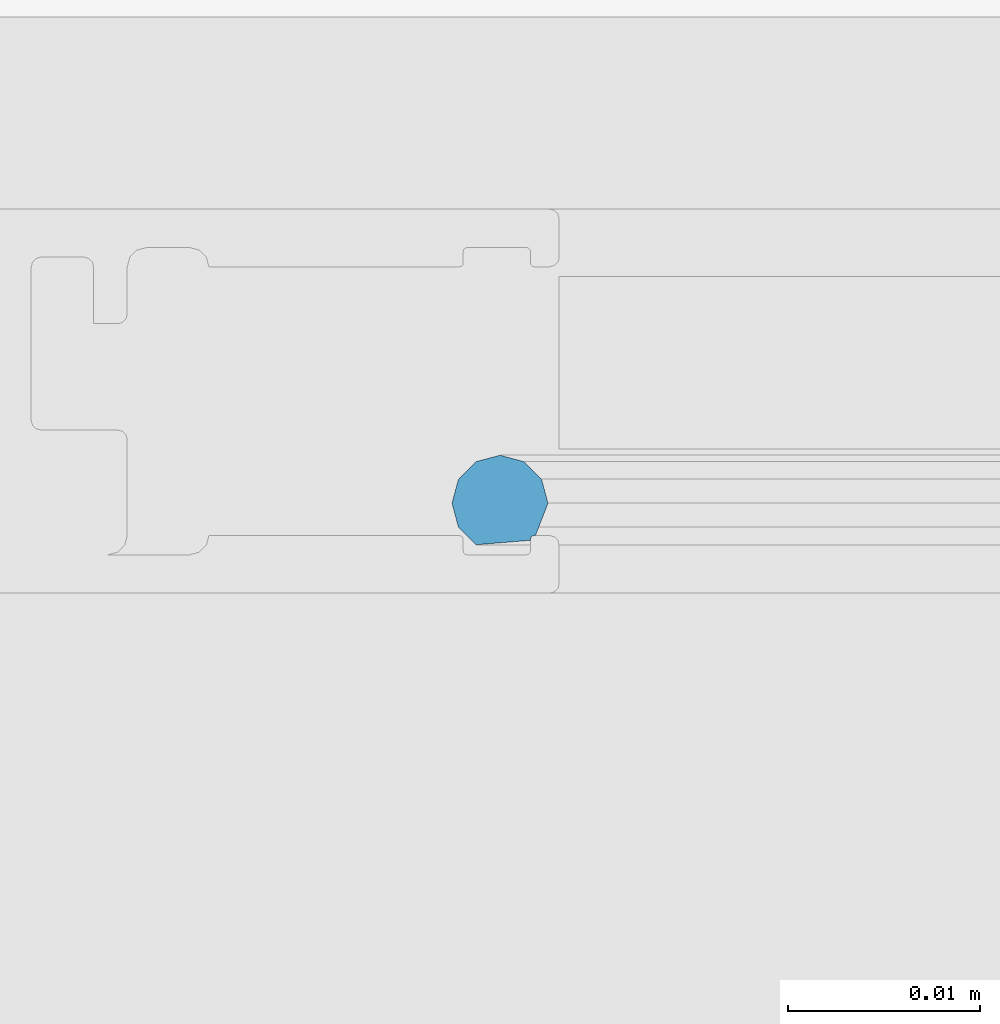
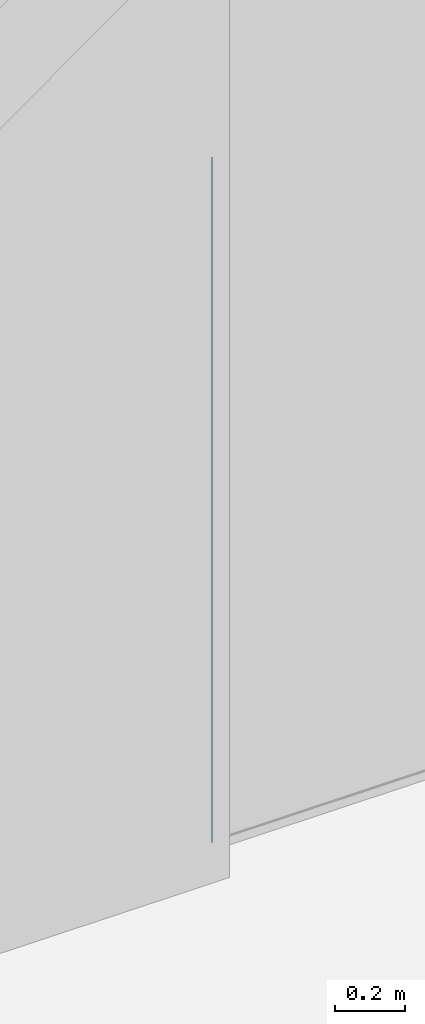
# One storey, part 86 of 387: 1 building element part, 2 elements without a shape of their own.
"""IFC2X3 building model written with IfcOpenShell, lengths in millimetres."""

from ifc_helpers import new_model, entity, si_unit, converted_unit, derived_unit, money_unit, direction, frame, origin_with_axes, place, context, subcontext, project, spatial, faceted_brep, source, transform, mapped, material, type_object, element, aggregate, save


model = new_model("IFC2X3")

# Units and contexts
model_context = context("Model", 3, precision=0.01, world=origin_with_axes(), true_north=direction((0.0, 1.0)))
body_context = subcontext(model_context, "Body", "Model", "MODEL_VIEW")
ifc_project = project(units=[si_unit("LENGTHUNIT", "METRE", prefix="MILLI"), si_unit("AREAUNIT", "SQUARE_METRE"), si_unit("VOLUMEUNIT", "CUBIC_METRE"), converted_unit("PLANEANGLEUNIT", "DEGREE", entity("IfcPlaneAngleMeasure", 0.0174532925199), si_unit("PLANEANGLEUNIT", "RADIAN"), dimensions=[0, 0, 0, 0, 0, 0, 0]), si_unit("SOLIDANGLEUNIT", "STERADIAN"), money_unit("EUR"), converted_unit("TIMEUNIT", "Year", entity("IfcTimeMeasure", 31556926.0), si_unit("TIMEUNIT", "SECOND"), dimensions=[0, 0, 1, 0, 0, 0, 0]), si_unit("MASSUNIT", "GRAM", prefix="KILO"), si_unit("THERMODYNAMICTEMPERATUREUNIT", "DEGREE_CELSIUS"), si_unit("LUMINOUSINTENSITYUNIT", "LUMEN"), si_unit("ENERGYUNIT", "JOULE", prefix="MEGA"), derived_unit("THERMALCONDUCTANCEUNIT", [(si_unit("POWERUNIT", "WATT"), 1), (si_unit("LENGTHUNIT", "METRE"), -1), (si_unit("THERMODYNAMICTEMPERATUREUNIT", "KELVIN"), -1)]), derived_unit("SPECIFICHEATCAPACITYUNIT", [(si_unit("ENERGYUNIT", "JOULE"), 1), (si_unit("MASSUNIT", "GRAM", prefix="KILO"), -1), (si_unit("THERMODYNAMICTEMPERATUREUNIT", "KELVIN"), -1)]), derived_unit("MASSDENSITYUNIT", [(si_unit("MASSUNIT", "GRAM", prefix="KILO"), 1), (si_unit("VOLUMEUNIT", "CUBIC_METRE"), -1)])], contexts=[model_context])

# Site, building, storey
site_placement = place(None, origin_with_axes())
site = spatial("IfcSite", under=ifc_project, at=site_placement, Name="Puškini 31, Narva", CompositionType="ELEMENT")
building_placement = place(site_placement, origin_with_axes())
building = spatial("IfcBuilding", under=site, at=building_placement, Name="Narva Riigigümnaasium", CompositionType="ELEMENT")
storey_placement = place(building_placement, frame((0.0, 0.0, 2640.0), z_axis=(0.0, 0.0, 1.0), x_axis=(1.0, 0.0, 0.0)))
storey = spatial("IfcBuildingStorey", under=building, at=storey_placement, Name="2.korrus +2.64", CompositionType="ELEMENT", Elevation=2640.0)

# Curtain wall, member, building element part
curtain_wall_type = type_object("IfcCurtainWallType", Name="Curtain Wall Type", PredefinedType="NOTDEFINED")
curtain_wall_placement = place(storey_placement, frame((26984.7499996, 181679.973357, -1.33722362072e-05), z_axis=(0.0, 0.0, 1.0), x_axis=(1.0, 0.0, 0.0)))
curtain_wall = element("IfcCurtainWall", 1, at=curtain_wall_placement, inside=storey, type_object=curtain_wall_type, Name="G-SKLF-18")
member_type = type_object("IfcMemberType", Name="30 x 10", PredefinedType="MULLION")
member_placement = place(curtain_wall_placement, frame((-554.75, -1.56887836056e-08, 0.0), z_axis=(0.0, 0.0, 1.0), x_axis=(1.0, 0.0, 0.0)))
member = element("IfcMember", 2, at=member_placement, type_object=member_type, Name="G-SKLF-20-raam", ObjectType="MULLION")
aggregate(curtain_wall, [member])
ifc_material = material(Name="Membraan - Veekindel")
shared_shape = source(origin_with_axes(), body_context, "Body", "Brep", [
    faceted_brep([(-25.6641727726, 7.48000965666, 25.6641727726), (-28.5, 7.24760028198, 28.5), (-28.5, 7.24760028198, 2400.00001337), (-25.6641727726, 7.48000965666, 2400.00001337), (-24.7491092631, 6.56494614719, 24.7491092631), (-24.4141727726, 5.31494614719, 24.4141727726), (-24.7491092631, 4.06494614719, 24.7491092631), (-25.6641727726, 3.14988263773, 25.6641727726), (-26.9141727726, 2.81494614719, 26.9141727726), (-28.1641727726, 3.14988263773, 28.1641727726), (-29.079236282, 4.06494614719, 29.079236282), (-29.4141727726, 5.31494614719, 29.4141727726), (-28.7609519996, 6.99999999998, 28.7609519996), (-28.7, 6.99999999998, 28.7), (-28.6, 7.02679491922, 28.6), (-28.5267949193, 7.09999999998, 28.5267949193), (-28.5, 7.19999999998, 28.5), (-28.5, 7.19999999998, 2400.00001337), (-28.5267949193, 7.09999999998, 2400.00001337), (-28.6, 7.02679491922, 2400.00001337), (-28.7, 6.99999999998, 2400.00001337), (-28.7609519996, 6.99999999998, 2400.00001337), (-29.4141727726, 5.31494614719, 2400.00001337), (-29.079236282, 4.06494614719, 2400.00001337), (-28.1641727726, 3.14988263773, 2400.00001337), (-26.9141727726, 2.81494614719, 2400.00001337), (-25.6641727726, 3.14988263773, 2400.00001337), (-24.7491092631, 4.06494614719, 2400.00001337), (-24.4141727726, 5.31494614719, 2400.00001337), (-24.7491092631, 6.56494614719, 2400.00001337)], [[[0, 1, 2, 3]], [[1, 0, 4, 5, 6, 7, 8, 9, 10, 11, 12, 13, 14, 15, 16]], [[1, 16, 17, 2]], [[2, 17, 18, 19, 20, 21, 22, 23, 24, 25, 26, 27, 28, 29, 3]], [[4, 0, 3, 29]], [[5, 4, 29, 28]], [[6, 5, 28, 27]], [[7, 6, 27, 26]], [[8, 7, 26, 25]], [[9, 8, 25, 24]], [[10, 9, 24, 23]], [[11, 10, 23, 22]], [[12, 11, 22, 21]], [[13, 12, 21, 20]], [[14, 13, 20, 19]], [[15, 14, 19, 18]], [[16, 15, 18, 17]]]),
])
building_element_part_placement = place(member_placement, origin_with_axes())
building_element_part = element("IfcBuildingElementPart", 3, at=building_element_part_placement, material=ifc_material, Name="Membraan - Veekindel", context=body_context, shape_type="MappedRepresentation", body=[
    mapped(shared_shape, transform((0.0, 0.0, 0.0), x_axis=(-1.0, 0.0, 0.0), y_axis=(0.0, -1.0, 0.0), z_axis=(0.0, 0.0, 1.0))),
])
aggregate(member, [building_element_part])

save(model, "model.ifc")
